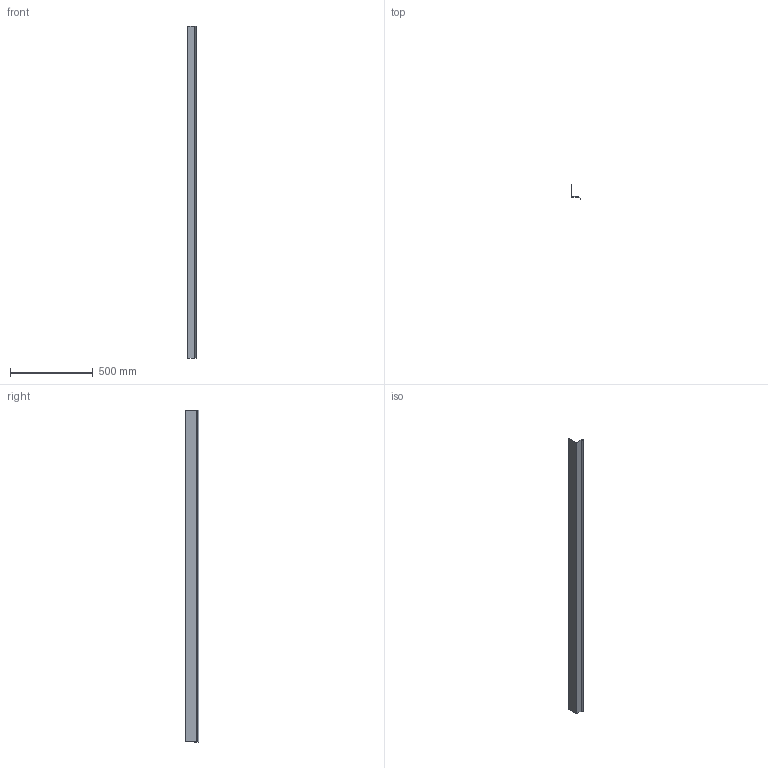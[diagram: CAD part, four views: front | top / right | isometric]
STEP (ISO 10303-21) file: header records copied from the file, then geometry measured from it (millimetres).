
FILE_DESCRIPTION (( 'STEP AP203' ), '1' );
FILE_NAME ('M50C.STEP', '2018-06-19T13:01:11', ( 'Michael Moliner' ), ( '' ), 'SwSTEP 2.0', 'SolidWorks 2018', '' );
FILE_SCHEMA (( 'CONFIG_CONTROL_DESIGN' ));
Length unit declared in the file: inch
Products named in the file (2): M50C
Bounding box: 53.16 x 82.02 x 2000 mm (x, y, z)
Volume: 142465.6 mm3; surface area: 563062.6 mm2
Topology: 1 solids, 1 shells, 18 faces, 48 edges, 32 vertices
Faces by surface type: plane 12, cylinder 6
Entity records: 721 total; most frequent: CARTESIAN_POINT 100, DIRECTION 100, ORIENTED_EDGE 96, EDGE_CURVE 48, LINE 36, VECTOR 36, AXIS2_PLACEMENT_3D 32, VERTEX_POINT 32
